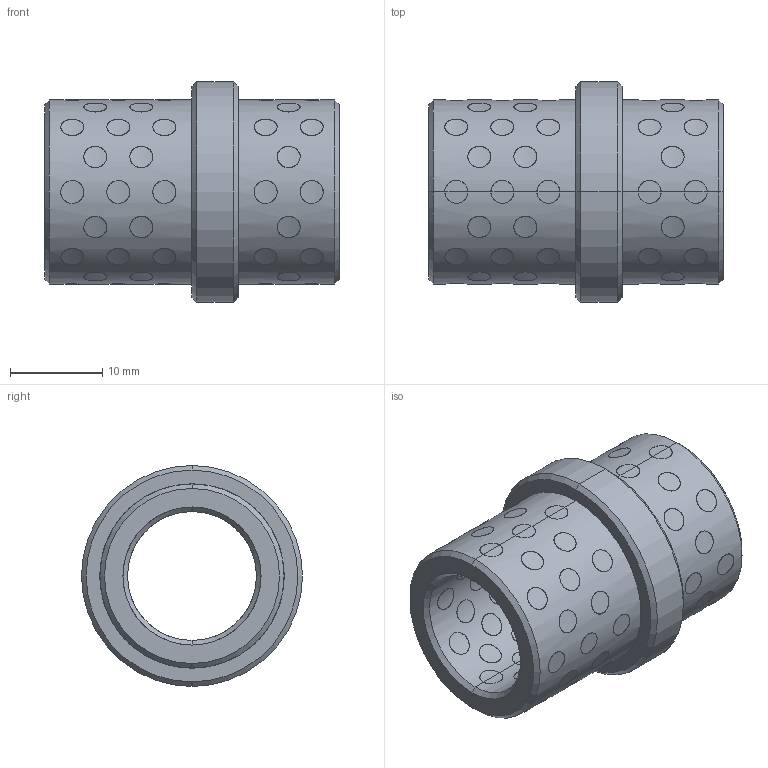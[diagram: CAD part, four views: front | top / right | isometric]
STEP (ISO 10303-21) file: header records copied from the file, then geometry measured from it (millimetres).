
FILE_DESCRIPTION(('CATIA V5 STEP Exchange'),'2;1');
FILE_NAME('C:\Users\Utente\Desktop\3D files G403\G4031432.stp','2020-04-22T08:52:09+00:00',('none'),('none'),'CATIA Version 5 Release 20 GA (IN-10)','CATIA V5 STEP AP203','none');
FILE_SCHEMA(('CONFIG_CONTROL_DESIGN'));
Length unit declared in the file: millimetre
Products named in the file (1): G4031432
Bounding box: 32 x 24 x 24 mm (x, y, z)
Surface area: 6986.6 mm2 (no closed solid volume)
Topology: 0 solids, 428 shells, 428 faces, 1872 edges, 1872 vertices
Faces by surface type: cylinder 412, revolution 12, plane 4
Entity records: 32599 total; most frequent: CARTESIAN_POINT 19630, ORIENTED_EDGE 1872, EDGE_CURVE 1872, VERTEX_POINT 1872, DIRECTION 1523, B_SPLINE_CURVE_WITH_KNOTS 1205, VECTOR 632, LINE 632
